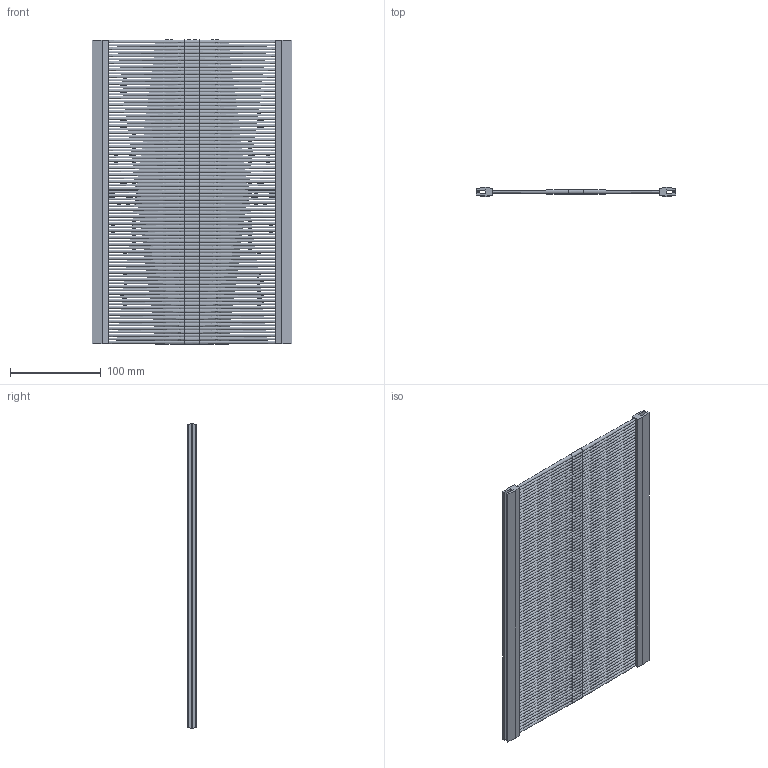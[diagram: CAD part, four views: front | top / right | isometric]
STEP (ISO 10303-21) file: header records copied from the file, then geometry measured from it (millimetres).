
FILE_DESCRIPTION(('Open CASCADE Model'),'2;1');
FILE_NAME('Open CASCADE Shape Model','2025-02-21T16:18:39',('Author'),( 'Open CASCADE'),'Open CASCADE STEP processor 7.8','Open CASCADE 7.8' ,'Unknown');
FILE_SCHEMA(('AUTOMOTIVE_DESIGN { 1 0 10303 214 1 1 1 1 }'));
Length unit declared in the file: millimetre
Products named in the file (2): Compound1; Solid1
Assembly tree (2 placements, depth 2):
  Compound1
    Solid1  x2
Bounding box: 220 x 9.5 x 335.6 mm (x, y, z)
Volume: 267044.6 mm3; surface area: 230288 mm2
Topology: 2 solids, 2 shells, 200 faces, 1104 edges, 734 vertices
Faces by surface type: cone 174, plane 26
Entity records: 9574 total; most frequent: CARTESIAN_POINT 4979, ORIENTED_EDGE 1104, DIRECTION 932, EDGE_CURVE 552, AXIS2_PLACEMENT_3D 450, VERTEX_POINT 367, CIRCLE 347, FACE_BOUND 187
